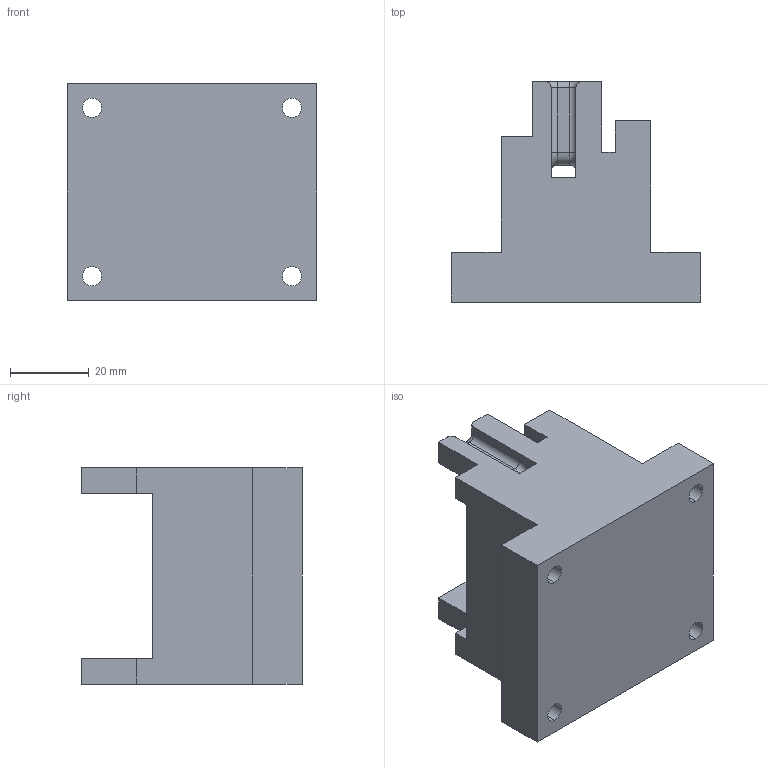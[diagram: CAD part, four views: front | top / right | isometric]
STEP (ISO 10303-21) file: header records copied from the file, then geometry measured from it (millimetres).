
FILE_DESCRIPTION (( 'STEP AP203' ), '1' );
FILE_NAME ('SERVO STAND trigger arm rev02.STEP', '2018-03-05T16:45:13', ( '' ), ( '' ), 'SwSTEP 2.0', 'SolidWorks 2015', '' );
FILE_SCHEMA (( 'CONFIG_CONTROL_DESIGN' ));
Length unit declared in the file: inch
Products named in the file (1): SERVO STAND trigger arm rev02
Bounding box: 63.4 x 56.1 x 55 mm (x, y, z)
Volume: 99221.9 mm3; surface area: 18736.4 mm2
Topology: 1 solids, 1 shells, 70 faces, 186 edges, 116 vertices
Faces by surface type: plane 32, cylinder 22, cone 8, torus 8
Entity records: 2257 total; most frequent: DIRECTION 388, CARTESIAN_POINT 373, ORIENTED_EDGE 372, EDGE_CURVE 186, AXIS2_PLACEMENT_3D 131, VECTOR 126, LINE 126, VERTEX_POINT 116
